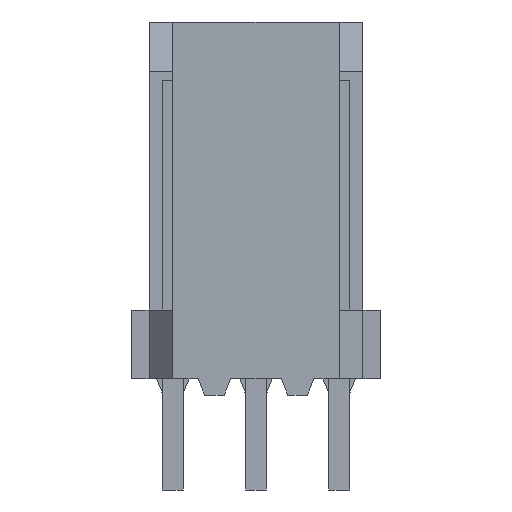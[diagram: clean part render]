
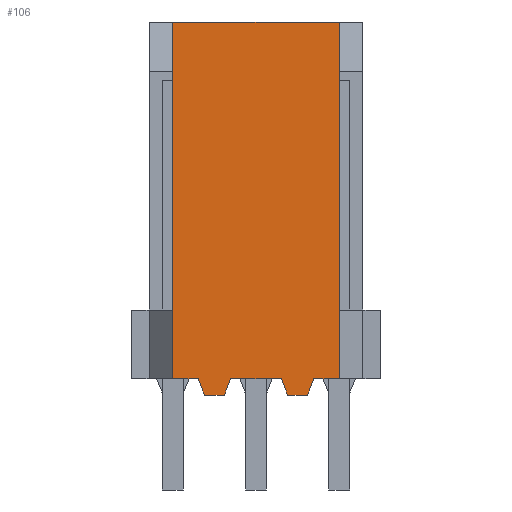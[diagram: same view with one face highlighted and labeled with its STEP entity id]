
A CAD part, front view. The second image highlights one B-rep face of the part: STEP entity #106.
In plain terms, the highlighted planar face has unit normal (0, -1, 0).
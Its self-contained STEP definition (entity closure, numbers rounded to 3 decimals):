
#106=ADVANCED_FACE('',(#353),#354,.T.);
#353=FACE_OUTER_BOUND('',#716,.T.);
#354=PLANE('',#717);
#716=EDGE_LOOP('',(#1527,#1528,#1529,#1530,#1531,#1532,#1533,#1534,#1535,#1536,#1537,#1538));
#717=AXIS2_PLACEMENT_3D('',#1539,#1540,#1541);
#1527=ORIENTED_EDGE('',*,*,#2706,.T.);
#1528=ORIENTED_EDGE('',*,*,#2635,.T.);
#1529=ORIENTED_EDGE('',*,*,#2707,.T.);
#1530=ORIENTED_EDGE('',*,*,#2708,.T.);
#1531=ORIENTED_EDGE('',*,*,#2709,.T.);
#1532=ORIENTED_EDGE('',*,*,#2616,.T.);
#1533=ORIENTED_EDGE('',*,*,#2710,.T.);
#1534=ORIENTED_EDGE('',*,*,#2711,.F.);
#1535=ORIENTED_EDGE('',*,*,#2705,.T.);
#1536=ORIENTED_EDGE('',*,*,#2612,.T.);
#1537=ORIENTED_EDGE('',*,*,#2712,.T.);
#1538=ORIENTED_EDGE('',*,*,#2713,.F.);
#1539=CARTESIAN_POINT('',(3.81,-2.5,-10.9));
#1540=DIRECTION('',(0.0,-1.0,0.0));
#1541=DIRECTION('',(0.0,0.0,-1.0));
#2612=EDGE_CURVE('',#3250,#3248,#3251,.T.);
#2616=EDGE_CURVE('',#3258,#3256,#3259,.T.);
#2635=EDGE_CURVE('',#3294,#3292,#3295,.T.);
#2705=EDGE_CURVE('',#3405,#3250,#3407,.T.);
#2706=EDGE_CURVE('',#3408,#3294,#3409,.T.);
#2707=EDGE_CURVE('',#3292,#3410,#3411,.T.);
#2708=EDGE_CURVE('',#3410,#3412,#3413,.T.);
#2709=EDGE_CURVE('',#3412,#3258,#3414,.T.);
#2710=EDGE_CURVE('',#3256,#3415,#3416,.T.);
#2711=EDGE_CURVE('',#3405,#3415,#3417,.T.);
#2712=EDGE_CURVE('',#3248,#3418,#3419,.T.);
#2713=EDGE_CURVE('',#3408,#3418,#3420,.T.);
#3248=VERTEX_POINT('',#4172);
#3250=VERTEX_POINT('',#4175);
#3251=LINE('',#4176,#4177);
#3256=VERTEX_POINT('',#4184);
#3258=VERTEX_POINT('',#4187);
#3259=LINE('',#4188,#4189);
#3292=VERTEX_POINT('',#4239);
#3294=VERTEX_POINT('',#4242);
#3295=LINE('',#4243,#4244);
#3405=VERTEX_POINT('',#4422);
#3407=LINE('',#4425,#4426);
#3408=VERTEX_POINT('',#4427);
#3409=LINE('',#4428,#4429);
#3410=VERTEX_POINT('',#4430);
#3411=LINE('',#4431,#4432);
#3412=VERTEX_POINT('',#4433);
#3413=LINE('',#4434,#4435);
#3414=LINE('',#4436,#4437);
#3415=VERTEX_POINT('',#4438);
#3416=LINE('',#4439,#4440);
#3417=LINE('',#4441,#4442);
#3418=VERTEX_POINT('',#4443);
#3419=LINE('',#4444,#4445);
#3420=LINE('',#4446,#4447);
#4172=CARTESIAN_POINT('',(0.77,-2.5,-10.9));
#4175=CARTESIAN_POINT('',(-0.77,-2.5,-10.9));
#4176=CARTESIAN_POINT('',(-0.77,-2.5,-10.9));
#4177=VECTOR('',#5188,1.54);
#4184=CARTESIAN_POINT('',(-1.77,-2.5,-10.9));
#4187=CARTESIAN_POINT('',(-2.54,-2.5,-10.9));
#4188=CARTESIAN_POINT('',(-2.54,-2.5,-10.9));
#4189=VECTOR('',#5192,0.77);
#4239=CARTESIAN_POINT('',(2.54,-2.5,-10.9));
#4242=CARTESIAN_POINT('',(1.77,-2.5,-10.9));
#4243=CARTESIAN_POINT('',(1.77,-2.5,-10.9));
#4244=VECTOR('',#5211,0.77);
#4422=CARTESIAN_POINT('',(-0.97,-2.5,-11.4));
#4425=CARTESIAN_POINT('',(-0.97,-2.5,-11.4));
#4426=VECTOR('',#5281,0.539);
#4427=CARTESIAN_POINT('',(1.57,-2.5,-11.4));
#4428=CARTESIAN_POINT('',(1.57,-2.5,-11.4));
#4429=VECTOR('',#5282,0.539);
#4430=CARTESIAN_POINT('',(2.54,-2.5,0.0));
#4431=CARTESIAN_POINT('',(2.54,-2.5,-10.9));
#4432=VECTOR('',#5283,10.9);
#4433=CARTESIAN_POINT('',(-2.54,-2.5,0.0));
#4434=CARTESIAN_POINT('',(2.54,-2.5,0.0));
#4435=VECTOR('',#5284,5.08);
#4436=CARTESIAN_POINT('',(-2.54,-2.5,0.0));
#4437=VECTOR('',#5285,10.9);
#4438=CARTESIAN_POINT('',(-1.57,-2.5,-11.4));
#4439=CARTESIAN_POINT('',(-1.77,-2.5,-10.9));
#4440=VECTOR('',#5286,0.539);
#4441=CARTESIAN_POINT('',(-0.97,-2.5,-11.4));
#4442=VECTOR('',#5287,0.6);
#4443=CARTESIAN_POINT('',(0.97,-2.5,-11.4));
#4444=CARTESIAN_POINT('',(0.77,-2.5,-10.9));
#4445=VECTOR('',#5288,0.539);
#4446=CARTESIAN_POINT('',(1.57,-2.5,-11.4));
#4447=VECTOR('',#5289,0.6);
#5188=DIRECTION('',(1.0,0.0,0.0));
#5192=DIRECTION('',(1.0,0.0,0.0));
#5211=DIRECTION('',(1.0,0.0,0.0));
#5281=DIRECTION('',(0.371,0.0,0.928));
#5282=DIRECTION('',(0.371,0.0,0.928));
#5283=DIRECTION('',(0.0,0.0,1.0));
#5284=DIRECTION('',(-1.0,0.0,0.0));
#5285=DIRECTION('',(0.0,0.0,-1.0));
#5286=DIRECTION('',(0.371,0.0,-0.928));
#5287=DIRECTION('',(-1.0,0.0,0.0));
#5288=DIRECTION('',(0.371,0.0,-0.928));
#5289=DIRECTION('',(-1.0,0.0,0.0));
